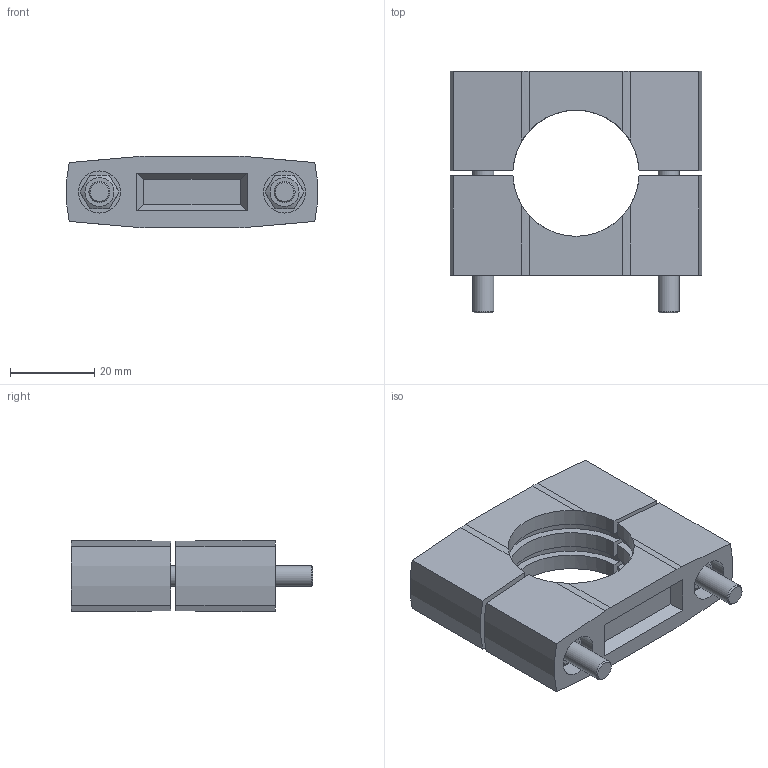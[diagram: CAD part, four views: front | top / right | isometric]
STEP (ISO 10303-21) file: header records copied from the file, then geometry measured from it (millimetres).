
FILE_DESCRIPTION(/* description */ (''),/* implementation_level */ '2;1');
FILE_NAME(/* name */ 'C:\#Vault-WorkDir\Konstruktions-Dokumente\Projekte\Zubehör allgemein\153-00018_MC 30 Halteschelle FM 30_0.stp',/* time_stamp */ '2015-07-16T10:45:06+02:00',/* author */ ('sandra.stahl'),/* organization */ (''),/* preprocessor_version */ 'ST-DEVELOPER v15.2',/* originating_system */ 'Autodesk Inventor 2014',/* authorisation */ '');
FILE_SCHEMA (('AUTOMOTIVE_DESIGN { 1 0 10303 214 3 1 1 }'));
Length unit declared in the file: millimetre
Products named in the file (1): GH-ENG-0010481
Bounding box: 59.82 x 57.5 x 17 mm (x, y, z)
Volume: 30538 mm3; surface area: 15201.8 mm2
Topology: 6 solids, 6 shells, 124 faces, 300 edges, 196 vertices
Faces by surface type: plane 70, cylinder 38, cone 12, torus 4
Full cylindrical faces by diameter (mm): 4.02 x2, 4.134 x2, 5 x2, 6 x4, 9.5 x2, 10 x4
Entity records: 3676 total; most frequent: CARTESIAN_POINT 729, DIRECTION 574, ORIENTED_EDGE 536, EDGE_CURVE 268, AXIS2_PLACEMENT_3D 221, VERTEX_POINT 192, EDGE_LOOP 172, LINE 132
